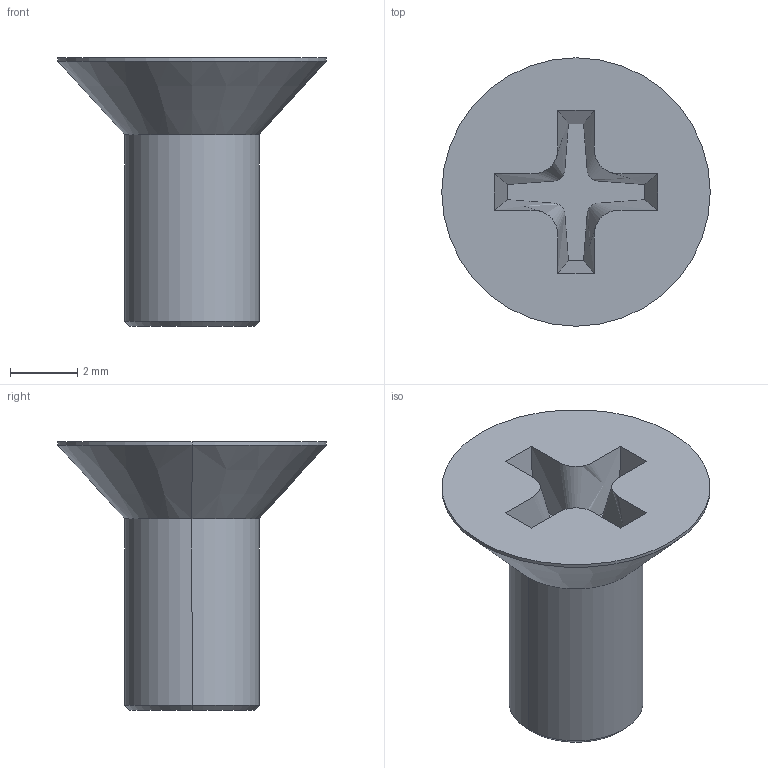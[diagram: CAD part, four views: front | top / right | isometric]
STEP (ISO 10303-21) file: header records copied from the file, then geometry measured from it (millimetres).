
FILE_DESCRIPTION (( 'STEP AP214' ), '1' );
FILE_NAME ('Flat Head SCREW M4 X8 MM.STEP', '2024-08-20T02:41:58', ( '' ), ( '' ), 'SwSTEP 2.0', 'SolidWorks 2023', '' );
FILE_SCHEMA (( 'AUTOMOTIVE_DESIGN' ));
Length unit declared in the file: millimetre
Products named in the file (1): Flat Head SCREW M4 X8 MM
Bounding box: 8 x 8 x 8 mm (x, y, z)
Volume: 128.4 mm3; surface area: 216.8 mm2
Topology: 1 solids, 1 shells, 19 faces, 58 edges, 42 vertices
Faces by surface type: plane 7, cone 4, cylinder 4, bspline 4
Entity records: 813 total; most frequent: CARTESIAN_POINT 252, ORIENTED_EDGE 116, DIRECTION 108, EDGE_CURVE 58, VERTEX_POINT 42, VECTOR 40, LINE 40, AXIS2_PLACEMENT_3D 34
